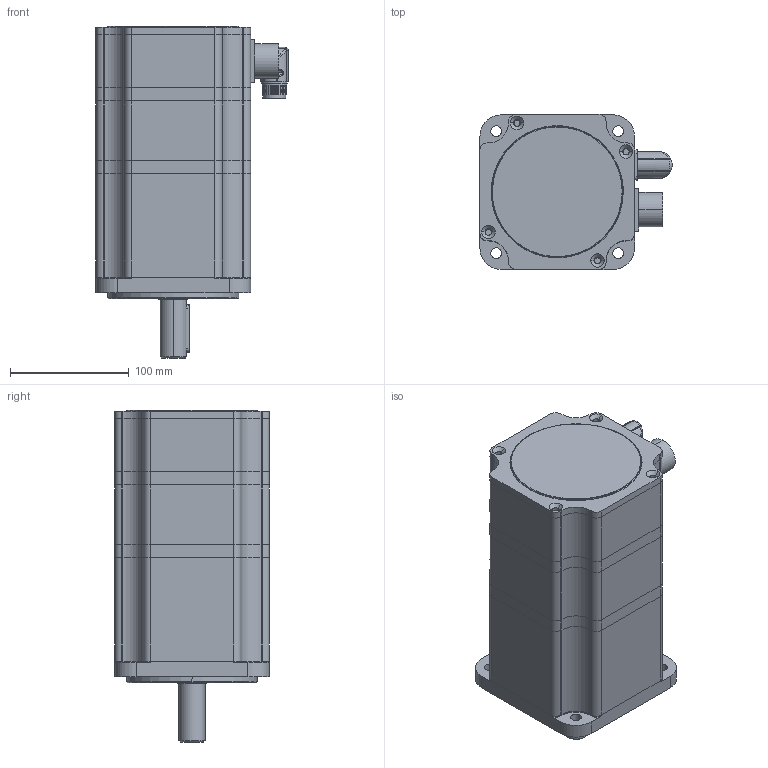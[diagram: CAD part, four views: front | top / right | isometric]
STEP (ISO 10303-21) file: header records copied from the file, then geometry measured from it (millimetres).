
FILE_DESCRIPTION (( 'STEP AP203' ), '1' );
FILE_NAME ('9.6963 SMC130D-0150-30ABK-4DKR.STEP', '2018-11-09T03:32:43', ( '' ), ( '' ), 'SwSTEP 2.0', 'SolidWorks 2008', '' );
FILE_SCHEMA (( 'CONFIG_CONTROL_DESIGN' ));
Length unit declared in the file: millimetre
Products named in the file (1): 9.6963 SMC130D-0150-30ABK-4DKR
Bounding box: 161.5 x 130 x 279 mm (x, y, z)
Surface area: 195300.7 mm2 (no closed solid volume)
Topology: 0 solids, 34 shells, 565 faces, 1681 edges, 1140 vertices
Faces by surface type: cylinder 332, plane 177, bspline 36, cone 20
Entity records: 21056 total; most frequent: CARTESIAN_POINT 5625, DIRECTION 3457, ORIENTED_EDGE 2893, EDGE_CURVE 1647, AXIS2_PLACEMENT_3D 1354, VERTEX_POINT 1140, CIRCLE 824, VECTOR 749
